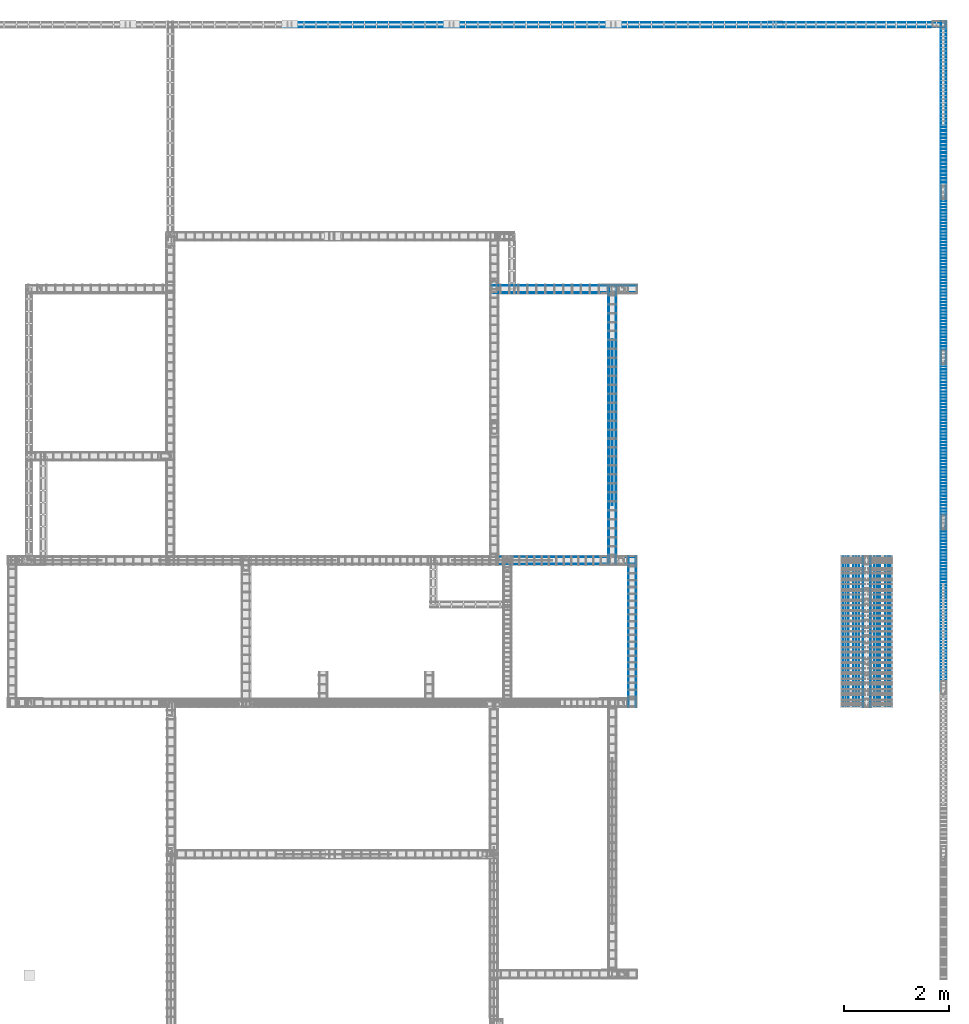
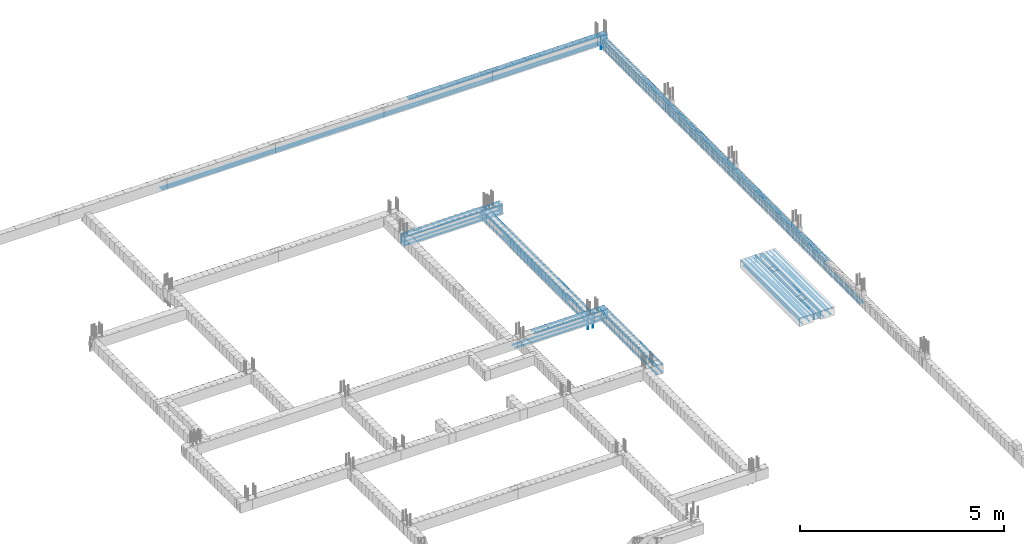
# One storey, part 16 of 150: 47 reinforcing bars.
"""IFC4 building model written with IfcOpenShell, lengths in centimetres."""

from ifc_helpers import new_model, entity, si_unit, derived_unit, frame, origin_with_axes, place, context, project, spatial, element, save


model = new_model("IFC4")

# Units and contexts
model_context = context("Model", 3, precision=1e-05, world=origin_with_axes(), identifier="Body")
ifc_project = project(units=[si_unit("LENGTHUNIT", "METRE", prefix="CENTI"), si_unit("VOLUMEUNIT", "CUBIC_METRE"), si_unit("AREAUNIT", "SQUARE_METRE"), si_unit("POWERUNIT", "WATT"), si_unit("LUMINOUSFLUXUNIT", "LUMEN"), si_unit("ELECTRICCURRENTUNIT", "AMPERE"), si_unit("PRESSUREUNIT", "PASCAL", prefix="KILO"), si_unit("MASSUNIT", "GRAM", prefix="KILO"), si_unit("PLANEANGLEUNIT", "RADIAN"), derived_unit("VOLUMETRICFLOWRATEUNIT", [(si_unit("LENGTHUNIT", "METRE"), 3), (si_unit("TIMEUNIT", "SECOND"), -1)])], contexts=[model_context])

# Site, building, storey
site_placement = place(None, frame((-4000.0, 0.0, 0.0), z_axis=(0.0, 0.0, 1.0), x_axis=(1.0, 0.0, 0.0)))
site = spatial("IfcSite", under=ifc_project, at=site_placement, Name="PADRÃO")
building_placement = place(site_placement, frame((0.0, 0.0, -14.0)))
building = spatial("IfcBuilding", under=site, at=building_placement, Name="CRECHE PRÉ-ESCOLA TIPO 2")
placement = place(building_placement, origin_with_axes())
storey_placement = place(placement, frame((0.0, 0.0, 30.0), z_axis=(0.0, 0.0, 1.0), x_axis=(1.0, 0.0, 0.0)))
storey = spatial("IfcBuildingStorey", under=building, at=storey_placement, Name="VIGA BALDRAME", CompositionType="ELEMENT", Elevation=16.0)

# Reinforcing bars
for number, where, z_axis, x_axis, name in (
    (1, (3825.85, 3335.015, -20.4), (0.0, 0.0, 1.0), (1.0, 0.0, 0.0), "LM1 - Inferior Y"),
    (2, (3805.85, 3335.015, -20.4), (0.0, 0.0, 1.0), (1.0, 0.0, 0.0), "LM1 - Inferior Y"),
):
    element("IfcReinforcingBar", number, at=place(storey_placement, frame(where, z_axis=z_axis, x_axis=x_axis)), inside=storey, Name=name, BarLength=0.0, CrossSectionArea=5.0265482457e-05, NominalDiameter=0.8, PredefinedType="MAIN", context=model_context, shape_type="AdvancedSweptSolid", body=[
        entity("IfcSweptDiskSolid", entity("IfcCompositeCurve", [entity("IfcCompositeCurveSegment", "CONTINUOUS", True, entity("IfcPolyline", [entity("IfcCartesianPoint", [0.0, -141.995, -0.4]), entity("IfcCartesianPoint", [0.0, 141.995, -0.4])]))], False), 0.4),
    ])
for number, where, z_axis, x_axis, name in (
    (3, (3830.84, 3335.02, -3.8), (0.0, 0.0, 1.0), (1.0, 0.0, 0.0), "LM1 - Superior Y"),
    (4, (3810.84, 3335.02, -3.8), (0.0, 0.0, 1.0), (1.0, 0.0, 0.0), "LM1 - Superior Y"),
    (5, (3820.84, 3335.02, -3.8), (0.0, 0.0, 1.0), (1.0, 0.0, 0.0), "LM1 - Superior Y"),
    (6, (3800.84, 3335.02, -3.8), (0.0, 0.0, 1.0), (1.0, 0.0, 0.0), "LM1 - Superior Y"),
):
    element("IfcReinforcingBar", number, at=place(storey_placement, frame(where, z_axis=z_axis, x_axis=x_axis)), inside=storey, Name=name, BarLength=0.0, CrossSectionArea=5.0265482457e-05, NominalDiameter=0.8, PredefinedType="MAIN", context=model_context, shape_type="AdvancedSweptSolid", body=[
        entity("IfcSweptDiskSolid", entity("IfcCompositeCurve", [entity("IfcCompositeCurveSegment", "CONTINUOUS", True, entity("IfcPolyline", [entity("IfcCartesianPoint", [0.0, -142.0, -0.4]), entity("IfcCartesianPoint", [0.0, 142.0, -0.4])]))], False), 0.4),
    ])
for number, where, z_axis, x_axis, name in (
    (7, (3885.85, 3335.015, -20.4), (0.0, 0.0, 1.0), (1.0, 0.0, 0.0), "LM2 - Inferior Y"),
    (8, (3865.85, 3335.015, -20.4), (0.0, 0.0, 1.0), (1.0, 0.0, 0.0), "LM2 - Inferior Y"),
):
    element("IfcReinforcingBar", number, at=place(storey_placement, frame(where, z_axis=z_axis, x_axis=x_axis)), inside=storey, Name=name, BarLength=0.0, CrossSectionArea=5.0265482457e-05, NominalDiameter=0.8, PredefinedType="MAIN", context=model_context, shape_type="AdvancedSweptSolid", body=[
        entity("IfcSweptDiskSolid", entity("IfcCompositeCurve", [entity("IfcCompositeCurveSegment", "CONTINUOUS", True, entity("IfcPolyline", [entity("IfcCartesianPoint", [0.0, -141.995, -0.4]), entity("IfcCartesianPoint", [0.0, 141.995, -0.4])]))], False), 0.4),
    ])
for number, where, z_axis, x_axis, name in (
    (9, (3860.84, 3335.02, -3.8), (0.0, 0.0, 1.0), (1.0, 0.0, 0.0), "LM2 - Superior Y"),
    (10, (3870.84, 3335.02, -3.8), (0.0, 0.0, 1.0), (1.0, 0.0, 0.0), "LM2 - Superior Y"),
    (11, (3890.84, 3335.02, -3.8), (0.0, 0.0, 1.0), (1.0, 0.0, 0.0), "LM2 - Superior Y"),
    (12, (3880.84, 3335.02, -3.8), (0.0, 0.0, 1.0), (1.0, 0.0, 0.0), "LM2 - Superior Y"),
):
    element("IfcReinforcingBar", number, at=place(storey_placement, frame(where, z_axis=z_axis, x_axis=x_axis)), inside=storey, Name=name, BarLength=0.0, CrossSectionArea=5.0265482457e-05, NominalDiameter=0.8, PredefinedType="MAIN", context=model_context, shape_type="AdvancedSweptSolid", body=[
        entity("IfcSweptDiskSolid", entity("IfcCompositeCurve", [entity("IfcCompositeCurveSegment", "CONTINUOUS", True, entity("IfcPolyline", [entity("IfcCartesianPoint", [0.0, -142.0, -0.4]), entity("IfcCartesianPoint", [0.0, 142.0, -0.4])]))], False), 0.4),
    ])
for number, where, z_axis, x_axis, name in (
    (13, (3211.5, 4491.1, -26.7), (0.0, 0.0, 1.0), (1.0, 0.0, 0.0), "V101 - Longitudinal inferior"),
    (14, (3211.5, 4481.9, -26.7), (0.0, 0.0, 1.0), (1.0, 0.0, 0.0), "V101 - Longitudinal inferior"),
):
    element("IfcReinforcingBar", number, at=place(storey_placement, frame(where, z_axis=z_axis, x_axis=x_axis)), inside=storey, Name=name, BarLength=0.0, CrossSectionArea=5.0265482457e-05, NominalDiameter=0.8, PredefinedType="MAIN", context=model_context, shape_type="AdvancedSweptSolid", body=[
        entity("IfcSweptDiskSolid", entity("IfcCompositeCurve", [entity("IfcCompositeCurveSegment", "CONTINUOUS", True, entity("IfcPolyline", [entity("IfcCartesianPoint", [-472.185840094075, 0.0, -0.4]), entity("IfcCartesianPoint", [472.185840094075, 0.0, -0.4])]))], False), 0.4),
    ])
for number, where, z_axis, x_axis, name in (
    (15, (3828.65707995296, 4491.1, -26.7), (0.0, 0.0, 1.0), (1.0, 0.0, 0.0), "V101 - Longitudinal inferior"),
    (16, (3828.65707995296, 4481.9, -26.7), (0.0, 0.0, 1.0), (1.0, 0.0, 0.0), "V101 - Longitudinal inferior"),
):
    element("IfcReinforcingBar", number, at=place(storey_placement, frame(where, z_axis=z_axis, x_axis=x_axis)), inside=storey, Name=name, BarLength=0.0, CrossSectionArea=5.0265482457e-05, NominalDiameter=0.8, PredefinedType="MAIN", context=model_context, shape_type="AdvancedSweptSolid", body=[
        entity("IfcSweptDiskSolid", entity("IfcCompositeCurve", [entity("IfcCompositeCurveSegment", "CONTINUOUS", True, entity("IfcPolyline", [entity("IfcCartesianPoint", [-168.342920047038, 0.0, -0.4]), entity("IfcCartesianPoint", [168.342920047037, 0.0, -0.4])]))], False), 0.4),
    ])
for number, where, z_axis, x_axis, name in (
    (17, (3718.7518751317, 4491.1, -2.49624973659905), (0.0, 0.0, 1.0), (1.0, 0.0, 0.0), "V101 - Longitudinal superior"),
    (18, (3718.7518751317, 4481.9, -2.49624973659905), (0.0, 0.0, 1.0), (1.0, 0.0, 0.0), "V101 - Longitudinal superior"),
):
    element("IfcReinforcingBar", number, at=place(storey_placement, frame(where, z_axis=z_axis, x_axis=x_axis)), inside=storey, Name=name, BarLength=0.0, CrossSectionArea=5.0265482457e-05, NominalDiameter=0.8, PredefinedType="MAIN", context=model_context, shape_type="AdvancedSweptSolid", body=[
        entity("IfcSweptDiskSolid", entity("IfcCompositeCurve", [entity("IfcCompositeCurveSegment", "CONTINUOUS", True, entity("IfcPolyline", [entity("IfcCartesianPoint", [-278.2518751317, 0.0, -0.403750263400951]), entity("IfcCartesianPoint", [277.8481248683, 0.0, -0.403750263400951])])), entity("IfcCompositeCurveSegment", "CONTINUOUS", True, entity("IfcPolyline", [entity("IfcCartesianPoint", [277.8481248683, 0.0, -0.403750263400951]), entity("IfcCartesianPoint", [277.8481248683, 0.0, -10.403750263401])]))], False), 0.4),
    ])
for number, where, z_axis, x_axis, name in (
    (19, (3271.24, 3977.91, -26.7), (0.0, 0.0, 1.0), (1.0, 0.0, 0.0), "V107 - Longitudinal inferior"),
    (20, (3271.24, 3992.11, -26.7), (0.0, 0.0, 1.0), (1.0, 0.0, 0.0), "V107 - Longitudinal inferior"),
):
    element("IfcReinforcingBar", number, at=place(storey_placement, frame(where, z_axis=z_axis, x_axis=x_axis)), inside=storey, Name=name, BarLength=0.0, CrossSectionArea=5.0265482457e-05, NominalDiameter=0.8, PredefinedType="MAIN", context=model_context, shape_type="AdvancedSweptSolid", body=[
        entity("IfcSweptDiskSolid", entity("IfcCompositeCurve", [entity("IfcCompositeCurveSegment", "CONTINUOUS", True, entity("IfcPolyline", [entity("IfcCartesianPoint", [-137.74, 0.0, -0.4]), entity("IfcCartesianPoint", [137.74, 0.0, -0.4])]))], False), 0.4),
    ])
for number, where, z_axis, x_axis, name in (
    (21, (3271.24, 3978.01, -2.49531217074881), (0.0, 0.0, 1.0), (1.0, 0.0, 0.0), "V107 - Longitudinal superior"),
    (22, (3271.24, 3992.01, -2.49531217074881), (0.0, 0.0, 1.0), (1.0, 0.0, 0.0), "V107 - Longitudinal superior"),
):
    element("IfcReinforcingBar", number, at=place(storey_placement, frame(where, z_axis=z_axis, x_axis=x_axis)), inside=storey, Name=name, BarLength=0.0, CrossSectionArea=7.853981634e-05, NominalDiameter=1.0, PredefinedType="MAIN", context=model_context, shape_type="AdvancedSweptSolid", body=[
        entity("IfcSweptDiskSolid", entity("IfcCompositeCurve", [entity("IfcCompositeCurveSegment", "CONTINUOUS", True, entity("IfcPolyline", [entity("IfcCartesianPoint", [-137.24, 0.0, -19.6170129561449]), entity("IfcCartesianPoint", [-137.24, 0.0, -0.504687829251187])])), entity("IfcCompositeCurveSegment", "CONTINUOUS", True, entity("IfcPolyline", [entity("IfcCartesianPoint", [-137.24, 0.0, -0.504687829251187]), entity("IfcCartesianPoint", [137.24, 0.0, -0.504687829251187])])), entity("IfcCompositeCurveSegment", "CONTINUOUS", True, entity("IfcPolyline", [entity("IfcCartesianPoint", [137.24, 0.0, -0.504687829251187]), entity("IfcCartesianPoint", [137.24, 0.0, -26.5046878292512])]))], False), 0.5),
    ])
for number, where, z_axis, x_axis, name in (
    (23, (3279.7418751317, 3477.11, -3.2095935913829), (0.0, 0.0, 1.0), (1.0, 0.0, 0.0), "V111 - Longitudinal inferior"),
    (24, (3279.7418751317, 3462.91, -3.2095935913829), (0.0, 0.0, 1.0), (1.0, 0.0, 0.0), "V111 - Longitudinal inferior"),
):
    element("IfcReinforcingBar", number, at=place(storey_placement, frame(where, z_axis=z_axis, x_axis=x_axis)), inside=storey, Name=name, BarLength=0.0, CrossSectionArea=5.0265482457e-05, NominalDiameter=0.8, PredefinedType="MAIN", context=model_context, shape_type="AdvancedSweptSolid", body=[
        entity("IfcSweptDiskSolid", entity("IfcCompositeCurve", [entity("IfcCompositeCurveSegment", "CONTINUOUS", True, entity("IfcPolyline", [entity("IfcCartesianPoint", [-129.2418751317, 0.0, -23.8904064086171]), entity("IfcCartesianPoint", [128.838124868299, 0.0, -23.8904064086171])])), entity("IfcCompositeCurveSegment", "CONTINUOUS", True, entity("IfcPolyline", [entity("IfcCartesianPoint", [128.838124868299, 0.0, -23.8904064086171]), entity("IfcCartesianPoint", [128.838124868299, 0.0, 0.0])]))], False), 0.4),
    ])
for number, where, z_axis, x_axis, name in (
    (25, (3307.75293135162, 3476.895, -2.49414021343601), (0.0, 0.0, 1.0), (1.0, 0.0, 0.0), "V111 - Longitudinal superior"),
    (26, (3307.75293135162, 3463.145, -2.49414021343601), (0.0, 0.0, 1.0), (1.0, 0.0, 0.0), "V111 - Longitudinal superior"),
):
    element("IfcReinforcingBar", number, at=place(storey_placement, frame(where, z_axis=z_axis, x_axis=x_axis)), inside=storey, Name=name, BarLength=0.0, CrossSectionArea=0.000122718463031, NominalDiameter=1.25, PredefinedType="MAIN", context=model_context, shape_type="AdvancedSweptSolid", body=[
        entity("IfcSweptDiskSolid", entity("IfcCompositeCurve", [entity("IfcCompositeCurveSegment", "CONTINUOUS", True, entity("IfcPolyline", [entity("IfcCartesianPoint", [-102.002929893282, 0.0, -0.630859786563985]), entity("IfcCartesianPoint", [101.372070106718, 0.0, -0.630859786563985])])), entity("IfcCompositeCurveSegment", "CONTINUOUS", True, entity("IfcPolyline", [entity("IfcCartesianPoint", [101.372070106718, 0.0, -0.630859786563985]), entity("IfcCartesianPoint", [101.372070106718, 0.0, -26.630859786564])]))], False), 0.625),
    ])
for number, where, z_axis, x_axis, name in (
    (27, (3393.98, 3335.01, -26.5), (0.0, 0.0, 1.0), (1.0, 0.0, 0.0), "V228 - Longitudinal inferior"),
    (28, (3407.98, 3335.01, -26.5), (0.0, 0.0, 1.0), (1.0, 0.0, 0.0), "V228 - Longitudinal inferior"),
):
    element("IfcReinforcingBar", number, at=place(storey_placement, frame(where, z_axis=z_axis, x_axis=x_axis)), inside=storey, Name=name, BarLength=0.0, CrossSectionArea=7.853981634e-05, NominalDiameter=1.0, PredefinedType="MAIN", context=model_context, shape_type="AdvancedSweptSolid", body=[
        entity("IfcSweptDiskSolid", entity("IfcCompositeCurve", [entity("IfcCompositeCurveSegment", "CONTINUOUS", True, entity("IfcPolyline", [entity("IfcCartesianPoint", [0.0, -143.0, -0.5]), entity("IfcCartesianPoint", [0.0, 143.0, -0.5])]))], False), 0.5),
    ])
for number, where, z_axis, x_axis, name in (
    (29, (3393.88, 3335.01, -2.5), (0.0, 0.0, 1.0), (1.0, 0.0, 0.0), "V228 - Longitudinal superior"),
    (30, (3408.08, 3335.01, -2.5), (0.0, 0.0, 1.0), (1.0, 0.0, 0.0), "V228 - Longitudinal superior"),
):
    element("IfcReinforcingBar", number, at=place(storey_placement, frame(where, z_axis=z_axis, x_axis=x_axis)), inside=storey, Name=name, BarLength=0.0, CrossSectionArea=5.0265482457e-05, NominalDiameter=0.8, PredefinedType="MAIN", context=model_context, shape_type="AdvancedSweptSolid", body=[
        entity("IfcSweptDiskSolid", entity("IfcCompositeCurve", [entity("IfcCompositeCurveSegment", "CONTINUOUS", True, entity("IfcPolyline", [entity("IfcCartesianPoint", [0.0, -143.0, -0.4]), entity("IfcCartesianPoint", [0.0, 143.0, -0.4])]))], False), 0.4),
    ])
for number, where, z_axis, x_axis, name in (
    (31, (3369.875, 3726.765, -11.875), (0.0, 0.0, 1.0), (1.0, 0.0, 0.0), "V229 - Longitudinal inferior"),
    (32, (3356.125, 3726.765, -11.875), (0.0, 0.0, 1.0), (1.0, 0.0, 0.0), "V229 - Longitudinal inferior"),
):
    element("IfcReinforcingBar", number, at=place(storey_placement, frame(where, z_axis=z_axis, x_axis=x_axis)), inside=storey, Name=name, BarLength=0.0, CrossSectionArea=0.000122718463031, NominalDiameter=1.25, PredefinedType="MAIN", context=model_context, shape_type="AdvancedSweptSolid", body=[
        entity("IfcSweptDiskSolid", entity("IfcCompositeCurve", [entity("IfcCompositeCurveSegment", "CONTINUOUS", True, entity("IfcPolyline", [entity("IfcCartesianPoint", [0.0, -262.62, 0.0]), entity("IfcCartesianPoint", [0.0, -262.62, -15.0])])), entity("IfcCompositeCurveSegment", "CONTINUOUS", True, entity("IfcPolyline", [entity("IfcCartesianPoint", [0.0, -262.62, -15.0]), entity("IfcCartesianPoint", [0.0, 262.62, -15.0])])), entity("IfcCompositeCurveSegment", "CONTINUOUS", True, entity("IfcPolyline", [entity("IfcCartesianPoint", [0.0, 262.62, -15.0]), entity("IfcCartesianPoint", [0.0, 262.62, 0.0])]))], False), 0.625),
    ])
reinforcing_bar_1_placement = place(storey_placement, frame((3363.0, 3732.515, -26.25), z_axis=(0.0, 0.0, 1.0), x_axis=(1.0, 0.0, 0.0)))
element("IfcReinforcingBar", 33, at=reinforcing_bar_1_placement, inside=storey, Name="V229 - Longitudinal inferior", BarLength=0.0, CrossSectionArea=0.000122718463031, NominalDiameter=1.25, PredefinedType="MAIN", context=model_context, shape_type="AdvancedSweptSolid", body=[
    entity("IfcSweptDiskSolid", entity("IfcCompositeCurve", [entity("IfcCompositeCurveSegment", "CONTINUOUS", True, entity("IfcPolyline", [entity("IfcCartesianPoint", [0.0, -157.495, -0.625]), entity("IfcCartesianPoint", [0.0, 157.495, -0.625])]))], False), 0.625),
])
for number, where, z_axis, x_axis, name in (
    (34, (3356.125, 3726.765, -2.49414021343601), (0.0, 0.0, 1.0), (1.0, 0.0, 0.0), "V229 - Longitudinal superior"),
    (35, (3369.875, 3726.765, -2.49414021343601), (0.0, 0.0, 1.0), (1.0, 0.0, 0.0), "V229 - Longitudinal superior"),
):
    element("IfcReinforcingBar", number, at=place(storey_placement, frame(where, z_axis=z_axis, x_axis=x_axis)), inside=storey, Name=name, BarLength=0.0, CrossSectionArea=0.000122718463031, NominalDiameter=1.25, PredefinedType="MAIN", context=model_context, shape_type="AdvancedSweptSolid", body=[
        entity("IfcSweptDiskSolid", entity("IfcCompositeCurve", [entity("IfcCompositeCurveSegment", "CONTINUOUS", True, entity("IfcPolyline", [entity("IfcCartesianPoint", [0.0, -262.62, -41.6356874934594]), entity("IfcCartesianPoint", [0.0, -262.62, -0.630859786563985])])), entity("IfcCompositeCurveSegment", "CONTINUOUS", True, entity("IfcPolyline", [entity("IfcCartesianPoint", [0.0, -262.62, -0.630859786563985]), entity("IfcCartesianPoint", [0.0, 262.62, -0.630859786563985])])), entity("IfcCompositeCurveSegment", "CONTINUOUS", True, entity("IfcPolyline", [entity("IfcCartesianPoint", [0.0, 262.62, -0.630859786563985]), entity("IfcCartesianPoint", [0.0, 262.62, -31.1293978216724])]))], False), 0.625),
    ])
for number, where, z_axis, x_axis, name in (
    (36, (3996.0, 4321.57369385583, -30.0), (0.0, 0.0, 1.0), (1.0, 0.0, 0.0), "V230 - Longitudinal inferior"),
    (37, (3987.0, 4321.57369385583, -30.0), (0.0, 0.0, 1.0), (1.0, 0.0, 0.0), "V230 - Longitudinal inferior"),
):
    element("IfcReinforcingBar", number, at=place(storey_placement, frame(where, z_axis=z_axis, x_axis=x_axis)), inside=storey, Name=name, BarLength=0.0, CrossSectionArea=7.853981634e-05, NominalDiameter=1.0, PredefinedType="MAIN", context=model_context, shape_type="AdvancedSweptSolid", body=[
        entity("IfcSweptDiskSolid", entity("IfcCompositeCurve", [entity("IfcCompositeCurveSegment", "CONTINUOUS", True, entity("IfcPolyline", [entity("IfcCartesianPoint", [0.0, -171.430993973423, -12.0]), entity("IfcCartesianPoint", [0.0, 170.926306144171, -12.0])])), entity("IfcCompositeCurveSegment", "CONTINUOUS", True, entity("IfcPolyline", [entity("IfcCartesianPoint", [0.0, 170.926306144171, -12.0]), entity("IfcCartesianPoint", [0.0, 170.926306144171, 0.0])]))], False), 0.5),
    ])
reinforcing_bar_2_placement = place(storey_placement, frame((3987.0, 4014.75234391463, -30.0), z_axis=(0.0, 0.0, 1.0), x_axis=(1.0, 0.0, 0.0)))
element("IfcReinforcingBar", 38, at=reinforcing_bar_2_placement, inside=storey, Name="V230 - Longitudinal inferior", BarLength=0.0, CrossSectionArea=7.853981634e-05, NominalDiameter=1.0, PredefinedType="MAIN", context=model_context, shape_type="AdvancedSweptSolid", body=[
    entity("IfcSweptDiskSolid", entity("IfcCompositeCurve", [entity("IfcCompositeCurveSegment", "CONTINUOUS", True, entity("IfcPolyline", [entity("IfcCartesianPoint", [0.0, -478.252343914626, -12.0]), entity("IfcCartesianPoint", [0.0, 477.747656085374, -12.0])])), entity("IfcCompositeCurveSegment", "CONTINUOUS", True, entity("IfcPolyline", [entity("IfcCartesianPoint", [0.0, 477.747656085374, -12.0]), entity("IfcCartesianPoint", [0.0, 477.747656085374, 0.0])]))], False), 0.5),
])
for number, where, z_axis, x_axis, name in (
    (39, (3987.0, 3704.9286500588, -41.5), (0.0, 0.0, 1.0), (1.0, 0.0, 0.0), "V230 - Longitudinal inferior"),
    (40, (3996.0, 3704.9286500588, -41.5), (0.0, 0.0, 1.0), (1.0, 0.0, 0.0), "V230 - Longitudinal inferior"),
):
    element("IfcReinforcingBar", number, at=place(storey_placement, frame(where, z_axis=z_axis, x_axis=x_axis)), inside=storey, Name=name, BarLength=0.0, CrossSectionArea=7.853981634e-05, NominalDiameter=1.0, PredefinedType="MAIN", context=model_context, shape_type="AdvancedSweptSolid", body=[
        entity("IfcSweptDiskSolid", entity("IfcCompositeCurve", [entity("IfcCompositeCurveSegment", "CONTINUOUS", True, entity("IfcPolyline", [entity("IfcCartesianPoint", [0.0, -481.928650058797, -0.5]), entity("IfcCartesianPoint", [0.0, 481.928650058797, -0.5])]))], False), 0.5),
    ])
for number, where, z_axis, x_axis, name in (
    (41, (3987.0, 3943.00234391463, -17.4953121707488), (0.0, 0.0, 1.0), (1.0, 0.0, 0.0), "V230 - Longitudinal superior"),
    (42, (3996.0, 3943.00234391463, -17.4953121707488), (0.0, 0.0, 1.0), (1.0, 0.0, 0.0), "V230 - Longitudinal superior"),
):
    element("IfcReinforcingBar", number, at=place(storey_placement, frame(where, z_axis=z_axis, x_axis=x_axis)), inside=storey, Name=name, BarLength=0.0, CrossSectionArea=7.853981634e-05, NominalDiameter=1.0, PredefinedType="MAIN", context=model_context, shape_type="AdvancedSweptSolid", body=[
        entity("IfcSweptDiskSolid", entity("IfcCompositeCurve", [entity("IfcCompositeCurveSegment", "CONTINUOUS", True, entity("IfcPolyline", [entity("IfcCartesianPoint", [0.0, -550.002343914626, -0.504687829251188]), entity("IfcCartesianPoint", [0.0, 549.497656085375, -0.504687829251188])])), entity("IfcCompositeCurveSegment", "CONTINUOUS", True, entity("IfcPolyline", [entity("IfcCartesianPoint", [0.0, 549.497656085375, -0.504687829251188]), entity("IfcCartesianPoint", [0.0, 549.497656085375, -33.861987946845])]))], False), 0.5),
    ])
reinforcing_bar_3_placement = place(storey_placement, frame((3991.5, 3860.0, -17.5), z_axis=(0.0, 0.0, 1.0), x_axis=(1.0, 0.0, 0.0)))
element("IfcReinforcingBar", 43, at=reinforcing_bar_3_placement, inside=storey, Name="V230 - Longitudinal superior", BarLength=0.0, CrossSectionArea=7.853981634e-05, NominalDiameter=1.0, PredefinedType="MAIN", context=model_context, shape_type="AdvancedSweptSolid", body=[
    entity("IfcSweptDiskSolid", entity("IfcCompositeCurve", [entity("IfcCompositeCurveSegment", "CONTINUOUS", True, entity("IfcPolyline", [entity("IfcCartesianPoint", [0.0, -433.5, -0.5]), entity("IfcCartesianPoint", [0.0, 433.5, -0.5])]))], False), 0.5),
])
for number, where, z_axis, x_axis, name in (
    (44, (3852.84, 3335.02, -4.25844991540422), (0.0, 0.0, 1.0), (1.0, 0.0, 0.0), "VM1 - Longitudinal inferior"),
    (45, (3838.84, 3335.02, -4.25844991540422), (0.0, 0.0, 1.0), (1.0, 0.0, 0.0), "VM1 - Longitudinal inferior"),
):
    element("IfcReinforcingBar", number, at=place(storey_placement, frame(where, z_axis=z_axis, x_axis=x_axis)), inside=storey, Name=name, BarLength=0.0, CrossSectionArea=7.853981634e-05, NominalDiameter=1.0, PredefinedType="MAIN", context=model_context, shape_type="AdvancedSweptSolid", body=[
        entity("IfcSweptDiskSolid", entity("IfcCompositeCurve", [entity("IfcCompositeCurveSegment", "CONTINUOUS", True, entity("IfcPolyline", [entity("IfcCartesianPoint", [0.0, -142.5, 0.0]), entity("IfcCartesianPoint", [0.0, -142.5, -12.7415500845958])])), entity("IfcCompositeCurveSegment", "CONTINUOUS", True, entity("IfcPolyline", [entity("IfcCartesianPoint", [0.0, -142.5, -12.7415500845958]), entity("IfcCartesianPoint", [0.0, 142.5, -12.7415500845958])])), entity("IfcCompositeCurveSegment", "CONTINUOUS", True, entity("IfcPolyline", [entity("IfcCartesianPoint", [0.0, 142.5, -12.7415500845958]), entity("IfcCartesianPoint", [0.0, 142.5, 0.0])]))], False), 0.5),
    ])
for number, where, z_axis, x_axis, name in (
    (46, (3838.84, 3335.02, -2.49531217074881), (0.0, 0.0, 1.0), (1.0, 0.0, 0.0), "VM1 - Longitudinal superior"),
    (47, (3852.84, 3335.02, -2.49531217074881), (0.0, 0.0, 1.0), (1.0, 0.0, 0.0), "VM1 - Longitudinal superior"),
):
    element("IfcReinforcingBar", number, at=place(storey_placement, frame(where, z_axis=z_axis, x_axis=x_axis)), inside=storey, Name=name, BarLength=0.0, CrossSectionArea=7.853981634e-05, NominalDiameter=1.0, PredefinedType="MAIN", context=model_context, shape_type="AdvancedSweptSolid", body=[
        entity("IfcSweptDiskSolid", entity("IfcCompositeCurve", [entity("IfcCompositeCurveSegment", "CONTINUOUS", True, entity("IfcPolyline", [entity("IfcCartesianPoint", [0.0, -142.5, -16.5046878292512]), entity("IfcCartesianPoint", [0.0, -142.5, -0.504687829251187])])), entity("IfcCompositeCurveSegment", "CONTINUOUS", True, entity("IfcPolyline", [entity("IfcCartesianPoint", [0.0, -142.5, -0.504687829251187]), entity("IfcCartesianPoint", [0.0, 142.5, -0.504687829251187])])), entity("IfcCompositeCurveSegment", "CONTINUOUS", True, entity("IfcPolyline", [entity("IfcCartesianPoint", [0.0, 142.5, -0.504687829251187]), entity("IfcCartesianPoint", [0.0, 142.5, -16.5046878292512])]))], False), 0.5),
    ])

save(model, "model.ifc")
